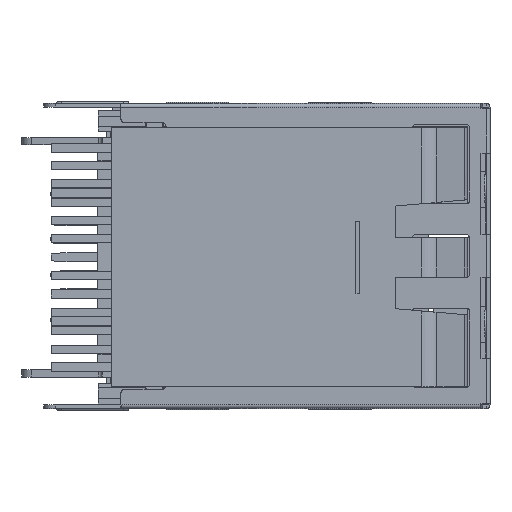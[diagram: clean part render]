
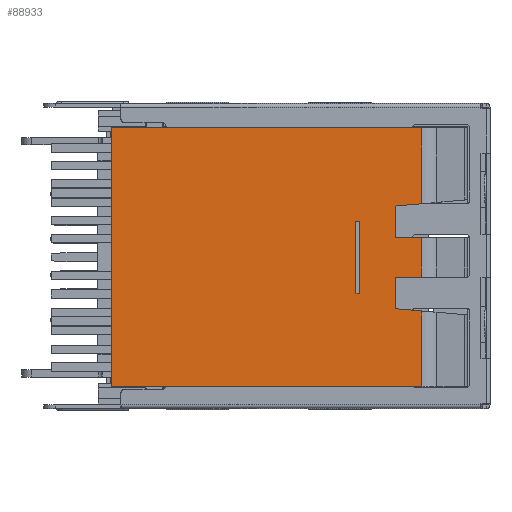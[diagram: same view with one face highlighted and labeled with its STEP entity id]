
A CAD part, front view. The second image highlights one B-rep face of the part: STEP entity #88933.
In plain terms, the highlighted planar face has unit normal (0, -1, 0).
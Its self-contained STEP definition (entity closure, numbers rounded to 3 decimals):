
#6346=DIRECTION('',(-1.,0.,0.));
#6347=VECTOR('',#6346,17.265);
#6348=CARTESIAN_POINT('',(12.506,-1.752,28.163));
#6349=LINE('',#6348,#6347);
#16485=DIRECTION('',(1.,0.,0.));
#16486=VECTOR('',#16485,17.265);
#16487=CARTESIAN_POINT('',(-4.758,-1.752,13.763));
#16488=LINE('',#16487,#16486);
#24251=CARTESIAN_POINT('',(12.506,-1.752,
23.942));
#24272=DIRECTION('',(0.,0.,1.));
#24273=VECTOR('',#24272,1.75);
#24274=CARTESIAN_POINT('',(11.042,-1.752,
22.063));
#24275=LINE('',#24274,#24273);
#24298=DIRECTION('',(-1.,0.,0.));
#24299=VECTOR('',#24298,1.465);
#24300=CARTESIAN_POINT('',(12.506,-1.752,
22.063));
#24301=LINE('',#24300,#24299);
#24766=DIRECTION('',(0.,0.,-1.));
#24767=VECTOR('',#24766,4.222);
#24768=CARTESIAN_POINT('',(12.506,-1.752,
17.985));
#24769=LINE('',#24768,#24767);
#24770=DIRECTION('',(0.,0.,1.));
#24771=VECTOR('',#24770,14.4);
#24772=CARTESIAN_POINT('',(-4.758,-1.752,13.763));
#24773=LINE('',#24772,#24771);
#24774=DIRECTION('',(0.996,0.,0.087));
#24775=VECTOR('',#24774,1.47);
#24776=CARTESIAN_POINT('',(11.042,-1.752,
23.813));
#24777=LINE('',#24776,#24775);
#24778=DIRECTION('',(-0.996,0.,0.087));
#24779=VECTOR('',#24778,1.47);
#24780=CARTESIAN_POINT('',(12.506,-1.752,
17.985));
#24781=LINE('',#24780,#24779);
#24782=DIRECTION('',(1.,0.,0.));
#24783=VECTOR('',#24782,0.2);
#24784=CARTESIAN_POINT('',(8.842,-1.752,
18.963));
#24785=LINE('',#24784,#24783);
#24790=DIRECTION('',(0.,0.,-1.));
#24791=VECTOR('',#24790,4.222);
#24792=CARTESIAN_POINT('',(12.506,-1.752,
28.163));
#24793=LINE('',#24792,#24791);
#28715=DIRECTION('',(0.,0.,-1.));
#28716=VECTOR('',#28715,2.2);
#28717=CARTESIAN_POINT('',(12.506,-1.752,
22.063));
#28718=LINE('',#28717,#28716);
#28756=DIRECTION('',(-1.,0.,0.));
#28757=VECTOR('',#28756,1.465);
#28758=CARTESIAN_POINT('',(12.506,-1.752,
19.863));
#28759=LINE('',#28758,#28757);
#28889=DIRECTION('',(0.,0.,1.));
#28890=VECTOR('',#28889,1.75);
#28891=CARTESIAN_POINT('',(11.042,-1.752,
18.113));
#28892=LINE('',#28891,#28890);
#29108=DIRECTION('',(0.,0.,-1.));
#29109=VECTOR('',#29108,4.);
#29110=CARTESIAN_POINT('',(9.042,-1.752,
22.963));
#29111=LINE('',#29110,#29109);
#29156=DIRECTION('',(0.,0.,-1.));
#29157=VECTOR('',#29156,4.);
#29158=CARTESIAN_POINT('',(8.842,-1.752,
22.963));
#29159=LINE('',#29158,#29157);
#29172=DIRECTION('',(1.,0.,0.));
#29173=VECTOR('',#29172,0.2);
#29174=CARTESIAN_POINT('',(8.842,-1.752,
22.963));
#29175=LINE('',#29174,#29173);
#42049=VERTEX_POINT('',#24251);
#42050=CARTESIAN_POINT('',(11.042,-1.752,
23.813));
#42051=VERTEX_POINT('',#42050);
#42057=CARTESIAN_POINT('',(12.506,-1.752,
28.163));
#42058=VERTEX_POINT('',#42057);
#42069=CARTESIAN_POINT('',(12.506,-1.752,
22.063));
#42070=CARTESIAN_POINT('',(12.506,-1.752,
19.863));
#42071=VERTEX_POINT('',#42069);
#42072=VERTEX_POINT('',#42070);
#42073=CARTESIAN_POINT('',(11.042,-1.752,
22.063));
#42074=VERTEX_POINT('',#42073);
#42075=CARTESIAN_POINT('',(12.506,-1.752,
17.985));
#42076=CARTESIAN_POINT('',(12.506,-1.752,
13.763));
#42077=VERTEX_POINT('',#42075);
#42078=VERTEX_POINT('',#42076);
#42079=CARTESIAN_POINT('',(11.042,-1.752,
18.113));
#42080=VERTEX_POINT('',#42079);
#42081=CARTESIAN_POINT('',(11.042,-1.752,
19.863));
#42082=VERTEX_POINT('',#42081);
#42313=CARTESIAN_POINT('',(8.842,-1.752,
18.963));
#42315=VERTEX_POINT('',#42313);
#42321=CARTESIAN_POINT('',(8.842,-1.752,
22.963));
#42322=VERTEX_POINT('',#42321);
#48078=CARTESIAN_POINT('',(-4.758,-1.752,28.163));
#48080=VERTEX_POINT('',#48078);
#48107=CARTESIAN_POINT('',(-4.758,-1.752,13.763));
#48108=VERTEX_POINT('',#48107);
#54957=CARTESIAN_POINT('',(9.042,-1.752,
18.963));
#54958=VERTEX_POINT('',#54957);
#54959=CARTESIAN_POINT('',(9.042,-1.752,
22.963));
#54960=VERTEX_POINT('',#54959);
#88899=CARTESIAN_POINT('',(10.774,-1.752,
20.963));
#88900=DIRECTION('',(0.,1.,0.));
#88901=DIRECTION('',(0.,0.,-1.));
#88902=AXIS2_PLACEMENT_3D('',#88899,#88900,#88901);
#88903=PLANE('',#88902);
#88904=ORIENTED_EDGE('',*,*,#77902,.F.);
#88905=ORIENTED_EDGE('',*,*,#63581,.T.);
#88906=ORIENTED_EDGE('',*,*,#63094,.F.);
#88908=ORIENTED_EDGE('',*,*,#88907,.T.);
#88909=ORIENTED_EDGE('',*,*,#88084,.F.);
#88910=ORIENTED_EDGE('',*,*,#88107,.F.);
#88911=ORIENTED_EDGE('',*,*,#88130,.F.);
#88913=ORIENTED_EDGE('',*,*,#88912,.T.);
#88915=ORIENTED_EDGE('',*,*,#88914,.T.);
#88917=ORIENTED_EDGE('',*,*,#88916,.F.);
#88919=ORIENTED_EDGE('',*,*,#88918,.F.);
#88920=ORIENTED_EDGE('',*,*,#88892,.T.);
#88921=EDGE_LOOP('',(#88904,#88905,#88906,#88908,#88909,#88910,#88911,#88913,
#88915,#88917,#88919,#88920));
#88922=FACE_OUTER_BOUND('',#88921,.F.);
#88924=ORIENTED_EDGE('',*,*,#88923,.F.);
#88926=ORIENTED_EDGE('',*,*,#88925,.F.);
#88928=ORIENTED_EDGE('',*,*,#88927,.T.);
#88930=ORIENTED_EDGE('',*,*,#88929,.T.);
#88931=EDGE_LOOP('',(#88924,#88926,#88928,#88930));
#88932=FACE_BOUND('',#88931,.F.);
#88933=ADVANCED_FACE('',(#88922,#88932),#88903,.F.);
#63094=EDGE_CURVE('',#42058,#48080,#6349,.T.);
#63581=EDGE_CURVE('',#48108,#48080,#24773,.T.);
#77902=EDGE_CURVE('',#48108,#42078,#16488,.T.);
#88084=EDGE_CURVE('',#42051,#42049,#24777,.T.);
#88107=EDGE_CURVE('',#42074,#42051,#24275,.T.);
#88130=EDGE_CURVE('',#42071,#42074,#24301,.T.);
#88892=EDGE_CURVE('',#42077,#42078,#24769,.T.);
#88907=EDGE_CURVE('',#42058,#42049,#24793,.T.);
#88912=EDGE_CURVE('',#42071,#42072,#28718,.T.);
#88914=EDGE_CURVE('',#42072,#42082,#28759,.T.);
#88916=EDGE_CURVE('',#42080,#42082,#28892,.T.);
#88918=EDGE_CURVE('',#42077,#42080,#24781,.T.);
#88923=EDGE_CURVE('',#54960,#54958,#29111,.T.);
#88925=EDGE_CURVE('',#42322,#54960,#29175,.T.);
#88927=EDGE_CURVE('',#42322,#42315,#29159,.T.);
#88929=EDGE_CURVE('',#42315,#54958,#24785,.T.);
